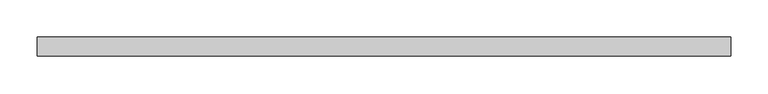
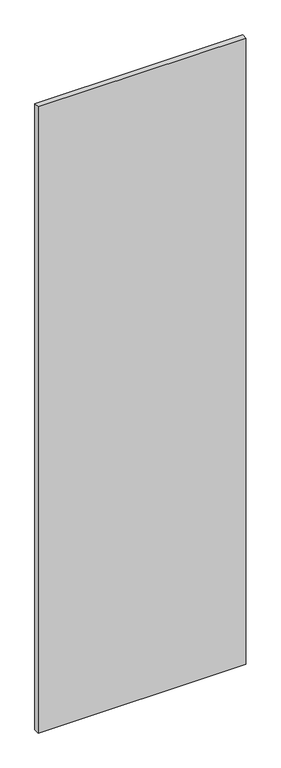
"""IFC4 building model written with IfcOpenShell, lengths in millimetres: plate geometry, Системная панель : С остеклением."""

from ifc_helpers import new_model, si_unit, origin, origin_with_axes, place, context, project, spatial, polyline, outline, extrude, source, transform, mapped, element, save


def plate_38c2607c(model_context):
    return source(origin(), model_context, "Body", "SweptSolid", [
        extrude(outline(polyline([(462.5, -49.5), (-462.5, -49.5), (-462.5, -24.5), (462.5, -24.5), (462.5, -49.5)])), origin_with_axes(), (0.0, 0.0, 1.0), 2950.0),
    ])


if __name__ == "__main__":
    model = new_model("IFC4")
    model_context = context("Model", 3, world=origin())
    ifc_project = project(units=[si_unit("LENGTHUNIT", "METRE", prefix="MILLI")], contexts=[model_context])
    site = spatial("IfcSite", under=ifc_project)
    building = spatial("IfcBuilding", under=site)
    placement = place(None, origin())
    plate_shape = plate_38c2607c(model_context)
    element("IfcPlate", 1, ObjectType="Системная панель : С остеклением", at=placement, inside=building, context=model_context, shape_type="MappedRepresentation", body=[
        mapped(plate_shape, transform((0.0, 0.0, 0.0), x_axis=(1.0, 0.0, 0.0), y_axis=(0.0, 1.0, 0.0), z_axis=(0.0, 0.0, 1.0))),
    ])
    save(model, "model.ifc")
